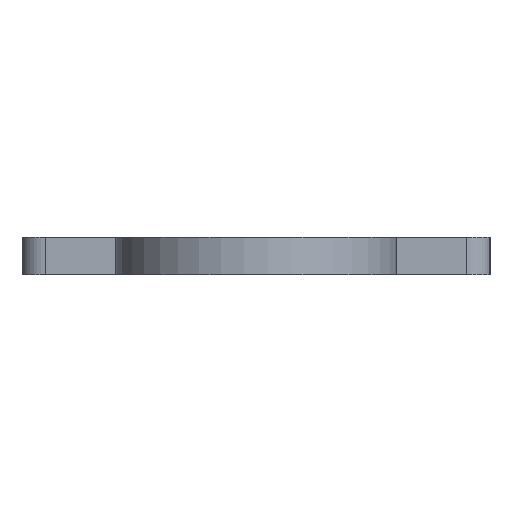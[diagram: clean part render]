
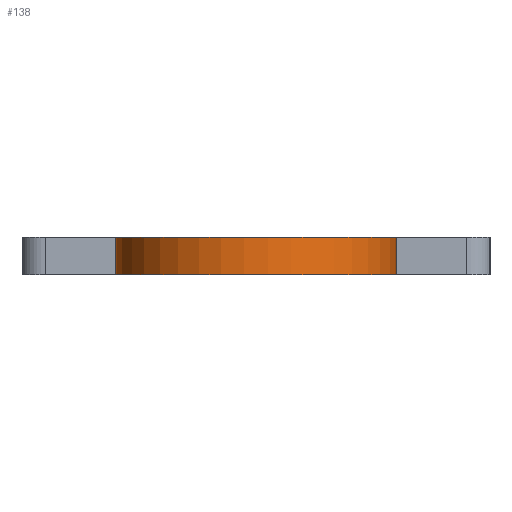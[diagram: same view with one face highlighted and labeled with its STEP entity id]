
A CAD part, left-side view. The second image highlights one B-rep face of the part: STEP entity #138.
In plain terms, the highlighted cylindrical face has radius 6 mm (diameter 12 mm), a partial arc.
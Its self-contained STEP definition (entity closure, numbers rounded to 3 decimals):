
#59=CYLINDRICAL_SURFACE('',#1006,6.);
#87=CIRCLE('',#1004,6.);
#88=CIRCLE('',#1005,6.);
#138=ADVANCED_FACE('',(#211),#59,.T.);
#211=FACE_OUTER_BOUND('',#255,.T.);
#255=EDGE_LOOP('',(#334,#335,#336,#337));
#334=ORIENTED_EDGE('',*,*,#698,.T.);
#335=ORIENTED_EDGE('',*,*,#699,.F.);
#336=ORIENTED_EDGE('',*,*,#700,.F.);
#337=ORIENTED_EDGE('',*,*,#696,.T.);
#596=VERTEX_POINT('',#1419);
#597=VERTEX_POINT('',#1421);
#598=VERTEX_POINT('',#1425);
#599=VERTEX_POINT('',#1427);
#696=EDGE_CURVE('',#597,#596,#829,.T.);
#698=EDGE_CURVE('',#596,#598,#87,.T.);
#699=EDGE_CURVE('',#599,#598,#830,.T.);
#700=EDGE_CURVE('',#597,#599,#88,.T.);
#829=LINE('',#1420,#917);
#830=LINE('',#1426,#918);
#917=VECTOR('',#1129,1.);
#918=VECTOR('',#1136,1.);
#1004=AXIS2_PLACEMENT_3D('',#1424,#1134,#1135);
#1005=AXIS2_PLACEMENT_3D('',#1428,#1137,#1138);
#1006=AXIS2_PLACEMENT_3D('',#1429,#1139,#1140);
#1129=DIRECTION('',(0.,0.,-1.));
#1134=DIRECTION('',(0.,0.,1.));
#1135=DIRECTION('',(1.,0.,0.));
#1136=DIRECTION('',(0.,0.,-1.));
#1137=DIRECTION('',(0.,0.,1.));
#1138=DIRECTION('',(1.,0.,0.));
#1139=DIRECTION('',(0.,0.,-1.));
#1140=DIRECTION('',(-1.,0.,0.));
#1419=CARTESIAN_POINT('',(-192.912,5.625,1.58));
#1420=CARTESIAN_POINT('',(-192.912,5.625,3.18));
#1421=CARTESIAN_POINT('',(-192.912,5.625,3.18));
#1424=CARTESIAN_POINT('',(-195.,0.,1.58));
#1425=CARTESIAN_POINT('',(-192.912,-5.625,1.58));
#1426=CARTESIAN_POINT('',(-192.912,-5.625,3.18));
#1427=CARTESIAN_POINT('',(-192.912,-5.625,3.18));
#1428=CARTESIAN_POINT('',(-195.,0.,3.18));
#1429=CARTESIAN_POINT('',(-195.,0.,3.18));
